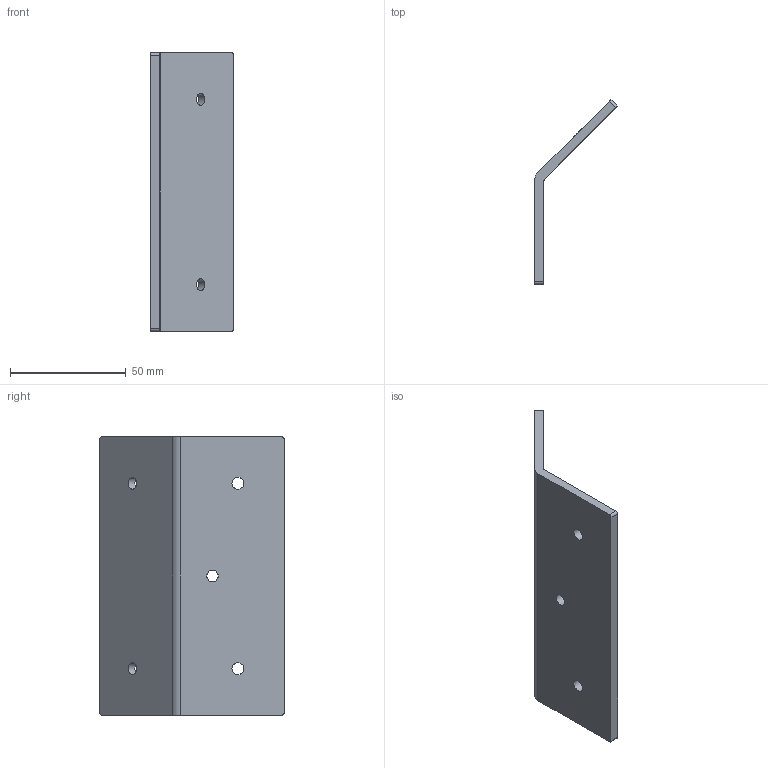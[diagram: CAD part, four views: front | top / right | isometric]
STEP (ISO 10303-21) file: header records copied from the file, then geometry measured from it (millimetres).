
FILE_DESCRIPTION(('HOOPS Exchange Step'),'2;1');
FILE_NAME('/private/var/mobile/Containers/Data/Application/E4481369-A8C6-45C6-A958-B1853E49479D/tmp/export/temp_export','2021-04-12T21:38:33+00:00',('mobile'),('Shapr3D Limited'),'HOOPS Exchange 2020.2','Shapr3D','Authorized');
FILE_SCHEMA( ('AP203_CONFIGURATION_CONTROLLED_3D_DESIGN_OF_MECHANICAL_PARTS_AND_ASSEMBLIES_MIM_LF') );
Length unit declared in the file: millimetre
Products named in the file (3): 0; /private/var/mobile/Containers/Data/Application/E4481369-A8C6-45C6-A958-B1853E49479D/tmp/8CF8DC5E-8A98-4555-8771-44AA7741BE64.tmp
Assembly tree (2 placements, depth 3):
  /private/var/mobile/Containers/Data/Application/E4481369-A8C6-45C6-A958-B1853E49479D/tmp/8CF8DC5E-8A98-4555-8771-44AA7741BE64.tmp
    0
      0
Bounding box: 35.82 x 79.65 x 120 mm (x, y, z)
Volume: 43511.6 mm3; surface area: 23765.3 mm2
Topology: 1 solids, 1 shells, 19 faces, 57 edges, 40 vertices
Faces by surface type: cylinder 11, plane 8
Full cylindrical faces by diameter (mm): 5 x1, 5.2 x4
Entity records: 757 total; most frequent: DIRECTION 133, CARTESIAN_POINT 121, ORIENTED_EDGE 114, EDGE_CURVE 57, AXIS2_PLACEMENT_3D 52, VERTEX_POINT 40, EDGE_LOOP 29, FACE_BOUND 29
